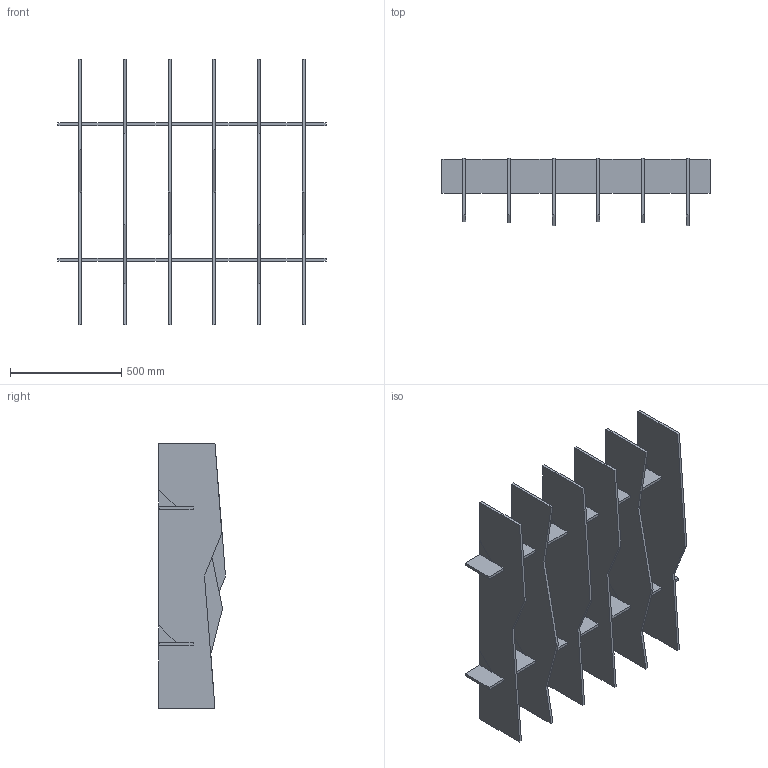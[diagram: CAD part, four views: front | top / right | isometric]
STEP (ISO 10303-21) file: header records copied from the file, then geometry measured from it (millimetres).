
FILE_DESCRIPTION(/* description */ (''),/* implementation_level */ '2;1');
FILE_NAME(/* name */ 'Y:\Design and Engineering\MaterialLogiq\CAD ASSETS\MASTER\BAFFLE\WEB ASSETS\PET BAFFLE_6FIN_4x4_10_PEAKS.stp',/* time_stamp */ '2023-11-16T10:09:12-06:00',/* author */ ('Grant Baker'),/* organization */ (''),/* preprocessor_version */ 'ST-DEVELOPER v19',/* originating_system */ 'Autodesk Inventor 2023',/* authorisation */ '');
FILE_SCHEMA (('AUTOMOTIVE_DESIGN { 1 0 10303 214 3 1 1 }'));
Length unit declared in the file: inch
Products named in the file (5): PET BAFFLE_PARAMETRIC_11.02.2023; PET BAFFLE_BEAM; PET BAFFLE_48in_FIN_PEAKS-1; PET BAFFLE_48in_FIN_PEAKS-2; PET BAFFLE_48in_FIN_PEAKS-3
Assembly tree (8 placements, depth 2):
  PET BAFFLE_PARAMETRIC_11.02.2023
    PET BAFFLE_BEAM  x2
    PET BAFFLE_48in_FIN_PEAKS-1  x2
    PET BAFFLE_48in_FIN_PEAKS-2  x2
    PET BAFFLE_48in_FIN_PEAKS-3  x2
Bounding box: 1206.5 x 301.21 x 1193.8 mm (x, y, z)
Volume: 26220977.3 mm3; surface area: 4637701.2 mm2
Topology: 20 solids, 20 shells, 326 faces, 858 edges, 572 vertices
Faces by surface type: plane 326
Entity records: 5134 total; most frequent: CARTESIAN_POINT 891, ORIENTED_EDGE 858, DIRECTION 781, LINE 429, VECTOR 429, EDGE_CURVE 429, VERTEX_POINT 286, AXIS2_PLACEMENT_3D 176
